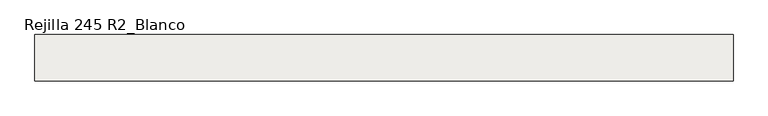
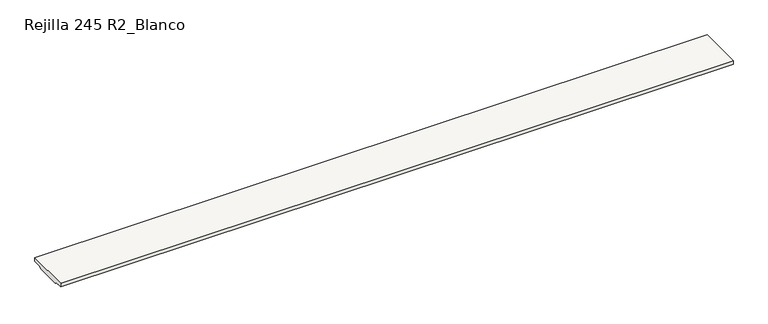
"""IFC4 building model written with IfcOpenShell, lengths in millimetres: slab geometry, ROSA GRES_245 R2 : Rejilla 245 R2_Blanco."""

from ifc_helpers import new_model, si_unit, frame, origin, place, context, project, spatial, polyline, outline, extrude, source, transform, mapped, element, save


def rejilla_245_r2_blanco_c9b4a24f(model_context):
    return source(origin(), model_context, "Body", "SweptSolid", [
        extrude(outline(polyline([(369.5908797, 206.3460936), (369.5908797, 228.3460936), (614.5908797, 228.3460936), (614.5908797, 206.3460936), (572.3142119, 206.3460936), (561.3142119, 195.3460936), (422.8675475, 195.3460936), (411.8675475, 206.3460936), (369.5908797, 206.3460936)])), frame((0.0, 0.0, 0.0), z_axis=(1.0, 0.0, 0.0), x_axis=(0.0, 1.0, 0.0)), (0.0, 0.0, 1.0), 3690.0),
    ])


if __name__ == "__main__":
    model = new_model("IFC4")
    model_context = context("Model", 3, world=origin())
    ifc_project = project(units=[si_unit("LENGTHUNIT", "METRE", prefix="MILLI")], contexts=[model_context])
    site = spatial("IfcSite", under=ifc_project)
    building = spatial("IfcBuilding", under=site)
    placement = place(None, origin())
    rejilla_245_r2_blanco_shape = rejilla_245_r2_blanco_c9b4a24f(model_context)
    element("IfcSlab", 1, ObjectType="ROSA GRES_245 R2 : Rejilla 245 R2_Blanco", at=placement, inside=building, context=model_context, shape_type="MappedRepresentation", body=[
        mapped(rejilla_245_r2_blanco_shape, transform((0.0, 0.0, 0.0), x_axis=(1.0, 0.0, 0.0), y_axis=(0.0, 1.0, 0.0), z_axis=(0.0, 0.0, 1.0))),
    ])
    save(model, "model.ifc")
